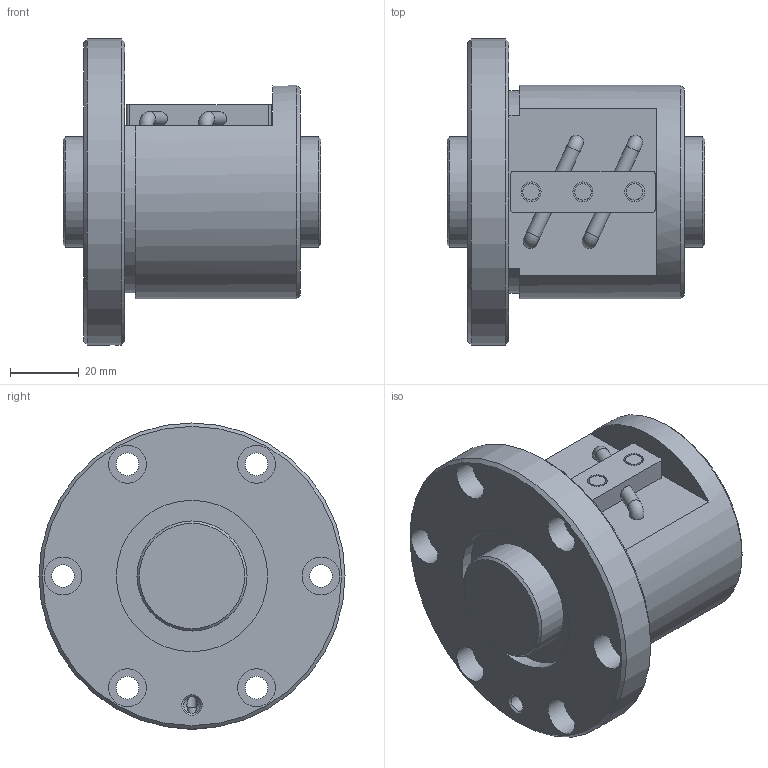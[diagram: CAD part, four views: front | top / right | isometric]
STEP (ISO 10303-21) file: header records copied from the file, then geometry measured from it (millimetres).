
FILE_DESCRIPTION(/* description */ ('STEP AP203'),/* implementation_level */ '2;1');
FILE_NAME(/* name */ 'BNF3206V-5RRG1+75LC0_000_rev',/* time_stamp */ '2024-08-06T07:36:42+02:00',/* author */ ('License CC BY-ND 4.0'),/* organization */ ('CADENAS'),/* preprocessor_version */ 'ST-DEVELOPER v19.3',/* originating_system */ 'PARTsolutions',/* authorisation */ ' ');
FILE_SCHEMA (('CONFIG_CONTROL_DESIGN'));
Length unit declared in the file: millimetre
Products named in the file (3): BNF3206V-5RRG1+75LC0_000_rev; BNF 3206-5RR000 Shaft; BNF 3206-5RR Nut
Assembly tree (2 placements, depth 2):
  BNF3206V-5RRG1+75LC0_000_rev
    BNF 3206-5RR000 Shaft
    BNF 3206-5RR Nut
Bounding box: 75 x 89 x 89 mm (x, y, z)
Volume: 213337.5 mm3; surface area: 43564.5 mm2
Topology: 2 solids, 2 shells, 78 faces, 172 edges, 113 vertices
Faces by surface type: cylinder 37, plane 29, cone 8, torus 4
Full cylindrical faces by diameter (mm): 3 x2, 4.131 x4, 4.8 x3, 4.917 x1, 5.8 x3, 6.6 x6, 11 x6, 32 x2, 44 x2, 62 x1, 89 x1
Entity records: 1991 total; most frequent: DIRECTION 352, CARTESIAN_POINT 341, ORIENTED_EDGE 230, AXIS2_PLACEMENT_3D 164, EDGE_LOOP 160, FACE_BOUND 160, EDGE_CURVE 115, VERTEX_POINT 99
